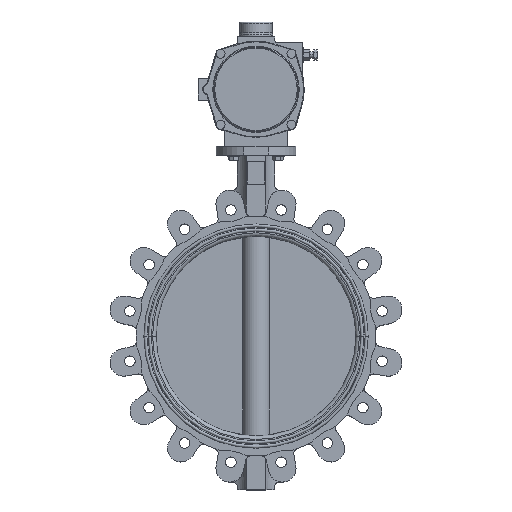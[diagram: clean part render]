
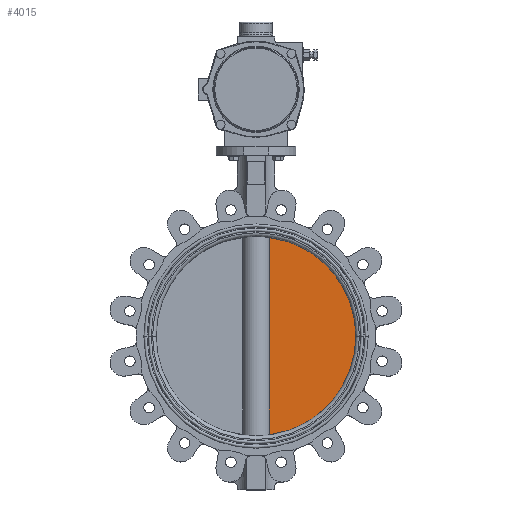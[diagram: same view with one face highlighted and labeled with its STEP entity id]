
A CAD part, top view. The second image highlights one B-rep face of the part: STEP entity #4015.
In plain terms, the highlighted planar face has unit normal (0, 0, 1).
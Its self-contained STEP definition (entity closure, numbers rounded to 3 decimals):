
#3324 = FACE_OUTER_BOUND ( 'NONE', #14900, .T. ) ;
#3602 = PLANE ( 'NONE',  #8325 ) ;
#3640 = CARTESIAN_POINT ( 'NONE',  ( 200., 0., 8. ) ) ;
#3859 = VERTEX_POINT ( 'NONE', #17047 ) ;
#4015 = ADVANCED_FACE ( 'NONE', ( #3324 ), #3602, .F. ) ;
#4118 = CARTESIAN_POINT ( 'NONE',  ( 26.833, 411.001, 8. ) ) ;
#6160 = CARTESIAN_POINT ( 'NONE',  ( 26.833, 411.001, 8. ) ) ;
#6567 = DIRECTION ( 'NONE',  ( 0., -1., 0. ) ) ;
#7906 = DIRECTION ( 'NONE',  ( -1., 0., 0. ) ) ;
#8325 = AXIS2_PLACEMENT_3D ( 'NONE', #4118, #24577, #7906 ) ;
#8920 = AXIS2_PLACEMENT_3D ( 'NONE', #14027, #11990, #26441 ) ;
#11290 = CIRCLE ( 'NONE', #15155, 200. ) ;
#11990 = DIRECTION ( 'NONE',  ( 0., 0., -1. ) ) ;
#12525 = CARTESIAN_POINT ( 'NONE',  ( 26.833, 198.192, 8. ) ) ;
#12991 = ORIENTED_EDGE ( 'NONE', *, *, #17809, .T. ) ;
#14027 = CARTESIAN_POINT ( 'NONE',  ( 0., 0., 8. ) ) ;
#14900 = EDGE_LOOP ( 'NONE', ( #20654, #12991, #22069 ) ) ;
#15155 = AXIS2_PLACEMENT_3D ( 'NONE', #18060, #20097, #26307 ) ;
#16289 = VERTEX_POINT ( 'NONE', #3640 ) ;
#17047 = CARTESIAN_POINT ( 'NONE',  ( 26.833, -198.192, 8. ) ) ;
#17809 = EDGE_CURVE ( 'NONE', #23687, #3859, #20955, .T. ) ;
#18060 = CARTESIAN_POINT ( 'NONE',  ( 0., 0., 8. ) ) ;
#19711 = VECTOR ( 'NONE', #6567, 1000. ) ;
#20097 = DIRECTION ( 'NONE',  ( 0., 0., -1. ) ) ;
#20654 = ORIENTED_EDGE ( 'NONE', *, *, #26637, .F. ) ;
#20955 = LINE ( 'NONE', #6160, #19711 ) ;
#21403 = EDGE_CURVE ( 'NONE', #16289, #3859, #23991, .T. ) ;
#22069 = ORIENTED_EDGE ( 'NONE', *, *, #21403, .F. ) ;
#23687 = VERTEX_POINT ( 'NONE', #12525 ) ;
#23991 = CIRCLE ( 'NONE', #8920, 200. ) ;
#24577 = DIRECTION ( 'NONE',  ( 0., 0., -1. ) ) ;
#26307 = DIRECTION ( 'NONE',  ( -1., 0., 0. ) ) ;
#26441 = DIRECTION ( 'NONE',  ( -1., 0., 0. ) ) ;
#26637 = EDGE_CURVE ( 'NONE', #23687, #16289, #11290, .T. ) ;
